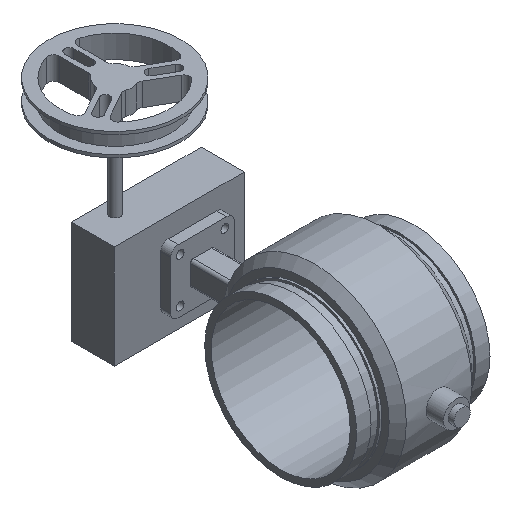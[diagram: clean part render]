
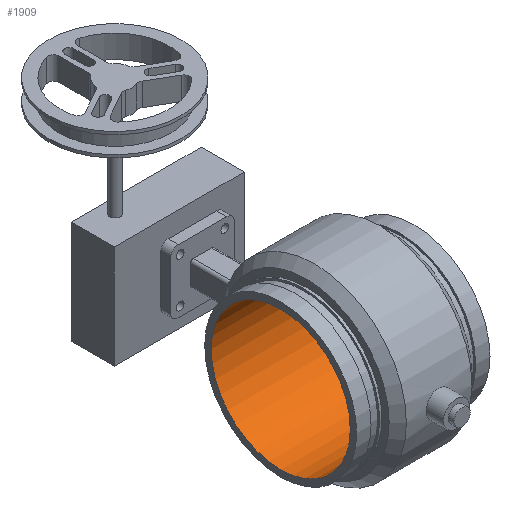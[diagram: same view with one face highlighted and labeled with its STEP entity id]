
A CAD part, isometric view. The second image highlights one B-rep face of the part: STEP entity #1909.
In plain terms, the highlighted cylindrical face has radius 77.025 mm (diameter 154.051 mm), a full revolution.
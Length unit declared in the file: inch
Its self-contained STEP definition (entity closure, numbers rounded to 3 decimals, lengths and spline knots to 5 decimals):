
#190=FACE_OUTER_BOUND('',#317,.T.);
#317=EDGE_LOOP('',(#1601,#1602,#1603,#1604,#1605,#1606));
#458=LINE('',#3297,#583);
#583=VECTOR('',#2671,3.0325);
#691=CIRCLE('',#2134,3.0325);
#692=CIRCLE('',#2135,3.0325);
#693=CIRCLE('',#2136,3.0325);
#694=CIRCLE('',#2137,3.0325);
#870=VERTEX_POINT('',#3293);
#871=VERTEX_POINT('',#3294);
#872=VERTEX_POINT('',#3296);
#873=VERTEX_POINT('',#3298);
#1121=EDGE_CURVE('',#870,#871,#691,.T.);
#1122=EDGE_CURVE('',#871,#872,#458,.T.);
#1123=EDGE_CURVE('',#873,#872,#692,.T.);
#1124=EDGE_CURVE('',#872,#873,#693,.T.);
#1125=EDGE_CURVE('',#871,#870,#694,.T.);
#1601=ORIENTED_EDGE('',*,*,#1121,.T.);
#1602=ORIENTED_EDGE('',*,*,#1122,.T.);
#1603=ORIENTED_EDGE('',*,*,#1123,.F.);
#1604=ORIENTED_EDGE('',*,*,#1124,.F.);
#1605=ORIENTED_EDGE('',*,*,#1122,.F.);
#1606=ORIENTED_EDGE('',*,*,#1125,.T.);
#1714=CYLINDRICAL_SURFACE('',#2133,3.0325);
#1909=ADVANCED_FACE('',(#190),#1714,.F.);
#2133=AXIS2_PLACEMENT_3D('',#3292,#2667,#2668);
#2134=AXIS2_PLACEMENT_3D('',#3295,#2669,#2670);
#2135=AXIS2_PLACEMENT_3D('',#3299,#2672,#2673);
#2136=AXIS2_PLACEMENT_3D('',#3300,#2674,#2675);
#2137=AXIS2_PLACEMENT_3D('',#3301,#2676,#2677);
#2667=DIRECTION('center_axis',(1.,0.,0.));
#2668=DIRECTION('ref_axis',(0.,1.,0.));
#2669=DIRECTION('center_axis',(1.,0.,0.));
#2670=DIRECTION('ref_axis',(0.,0.,-1.));
#2671=DIRECTION('',(-1.,0.,0.));
#2672=DIRECTION('center_axis',(1.,0.,0.));
#2673=DIRECTION('ref_axis',(0.,0.,-1.));
#2674=DIRECTION('center_axis',(1.,0.,0.));
#2675=DIRECTION('ref_axis',(0.,0.,-1.));
#2676=DIRECTION('center_axis',(1.,0.,0.));
#2677=DIRECTION('ref_axis',(0.,0.,-1.));
#3292=CARTESIAN_POINT('Origin',(0.,0.,
0.));
#3293=CARTESIAN_POINT('',(2.905,0.,-3.0325));
#3294=CARTESIAN_POINT('',(2.905,-3.0325,0.));
#3295=CARTESIAN_POINT('Origin',(2.905,0.,0.));
#3296=CARTESIAN_POINT('',(-2.905,-3.0325,0.));
#3297=CARTESIAN_POINT('',(0.,-3.0325,0.));
#3298=CARTESIAN_POINT('',(-2.905,3.0325,0.));
#3299=CARTESIAN_POINT('Origin',(-2.905,0.,0.));
#3300=CARTESIAN_POINT('Origin',(-2.905,0.,0.));
#3301=CARTESIAN_POINT('Origin',(2.905,0.,0.));
